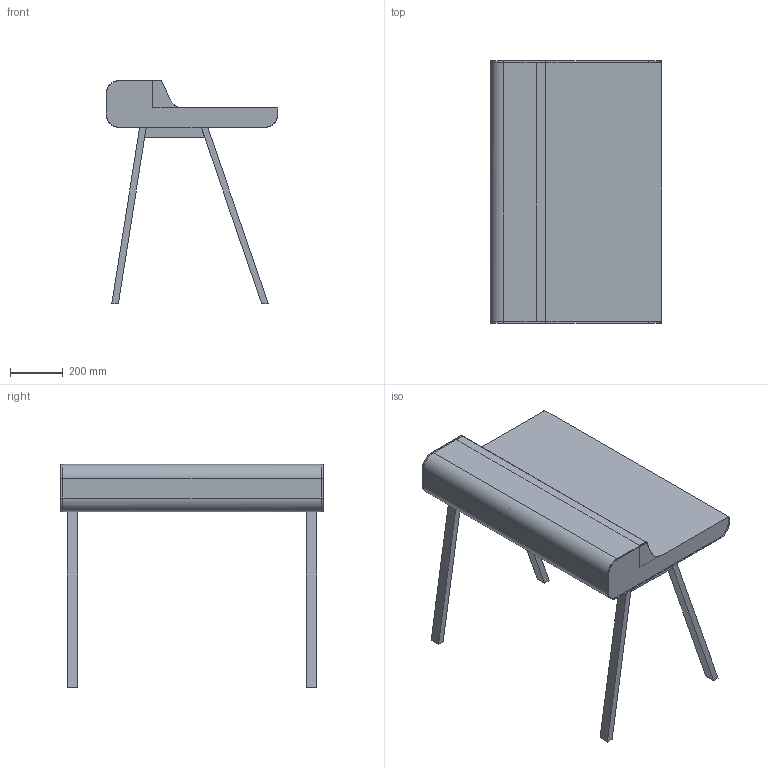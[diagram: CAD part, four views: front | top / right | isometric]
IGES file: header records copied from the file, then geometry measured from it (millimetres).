
Start section: Comment
Global section: file name: PS10-Fuese.igs; native system:  By UGS Corp.; preprocessor: XPlus GENERIC/IGES 3.0; author: Author; organization: Title; date: 20200324.154026; units: inch
Bounding box: 655 x 1000 x 850 mm (x, y, z)
Surface area: 2979993.7 mm2 (no closed solid volume)
Topology: 0 solids, 0 shells, 102 faces, 562 edges, 562 vertices
Faces by surface type: bspline 102
